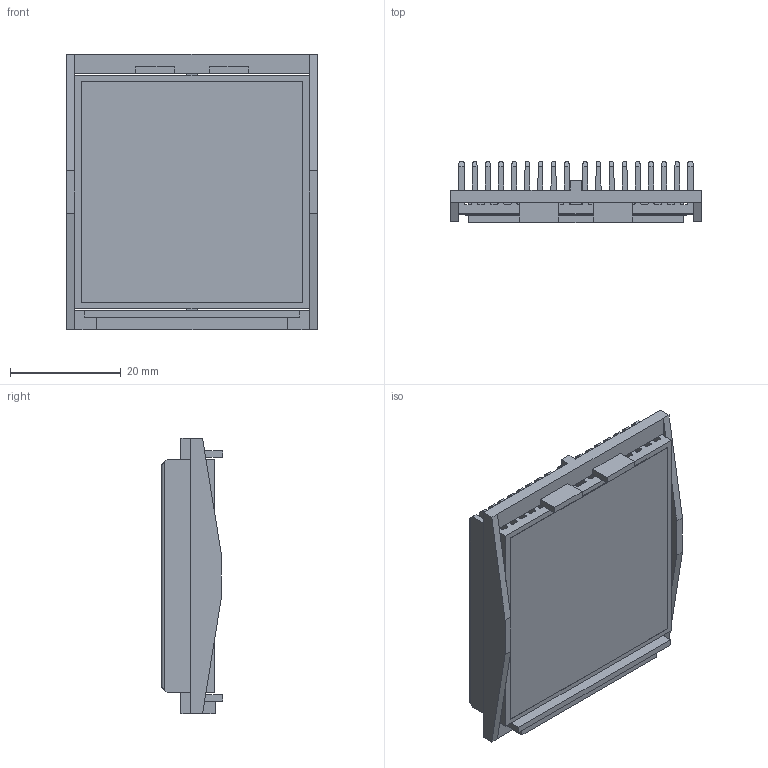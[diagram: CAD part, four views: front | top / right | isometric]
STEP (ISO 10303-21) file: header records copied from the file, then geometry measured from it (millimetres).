
FILE_DESCRIPTION (( 'STEP AP214' ), '1' );
FILE_NAME ('INL42.5001-10-1.7BU.STEP', '2023-03-01T18:23:44', ( '' ), ( '' ), 'SwSTEP 2.0', 'SolidWorks 2020', '' );
FILE_SCHEMA (( 'AUTOMOTIVE_DESIGN' ));
Length unit declared in the file: millimetre
Products named in the file (1): INL42.5001-10-1.7BU
Bounding box: 45.2 x 11 x 49.6 mm (x, y, z)
Volume: 10399.4 mm3; surface area: 21359.8 mm2
Topology: 3 solids, 3 shells, 198 faces, 578 edges, 384 vertices
Faces by surface type: plane 146, cylinder 52
Entity records: 8712 total; most frequent: CARTESIAN_POINT 1269, ORIENTED_EDGE 1156, DIRECTION 1008, EDGE_CURVE 578, LINE 474, VECTOR 474, VERTEX_POINT 384, AXIS2_PLACEMENT_3D 267
